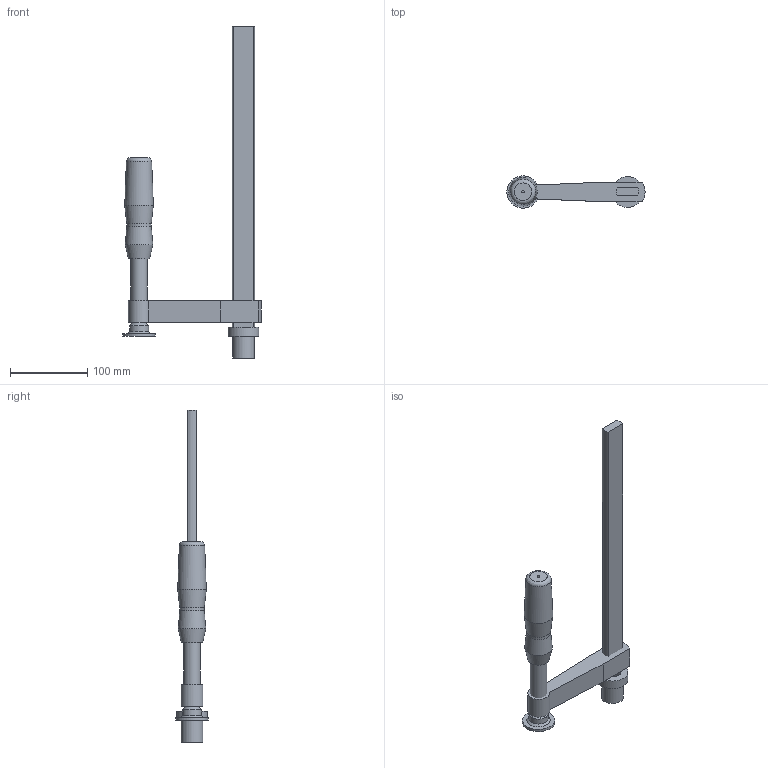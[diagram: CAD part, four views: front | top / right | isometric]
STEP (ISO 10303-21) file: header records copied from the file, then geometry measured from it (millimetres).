
FILE_DESCRIPTION( ('This file contains a STEP AP42 implementation' ,'as created by ZW3D STEP Interface translator.') ,'2;1' );
FILE_NAME( 'TW28-30-12-2K.stp' ,'14 317. 957 9', (''), ('ZWCAD Software Co.'), 'Version 1.0', 'ZW3D to STEP translator', '' );
FILE_SCHEMA( ('CONFIG_CONTROL_DESIGN') );
Length unit declared in the file: millimetre
Products named in the file (2): 0; 3205297 - TW28-30-12-2K unten
Bounding box: 178.54 x 41.7 x 429 mm (x, y, z)
Volume: 399224.2 mm3; surface area: 83072.8 mm2
Topology: 3 solids, 3 shells, 37 faces, 77 edges, 47 vertices
Faces by surface type: bspline 37
Entity records: 1307 total; most frequent: CARTESIAN_POINT 771, ORIENTED_EDGE 154, EDGE_CURVE 77, VERTEX_POINT 47, EDGE_LOOP 44, B_SPLINE_CURVE_WITH_KNOTS 40, FACE_OUTER_BOUND 37, ADVANCED_FACE 37
